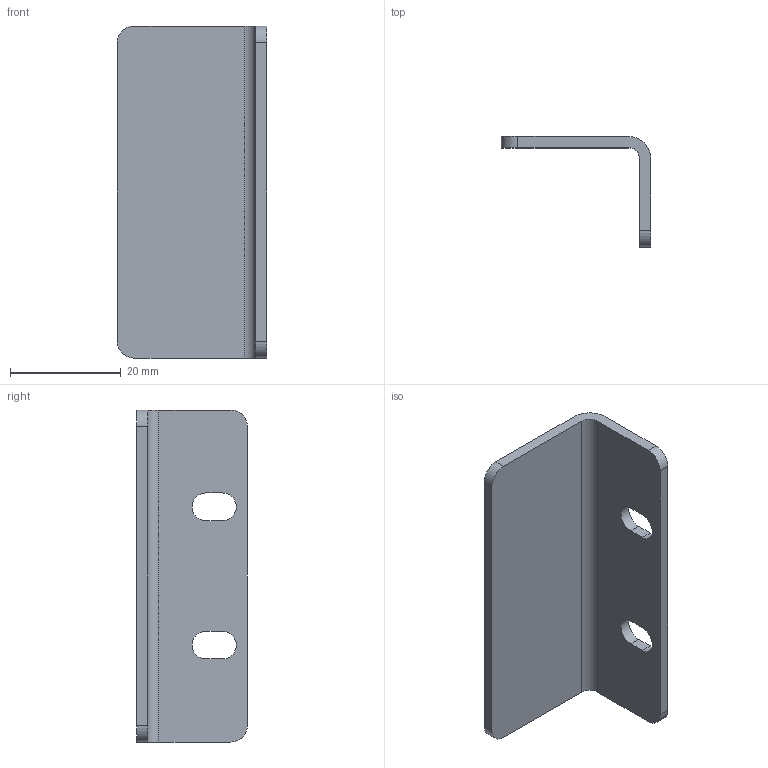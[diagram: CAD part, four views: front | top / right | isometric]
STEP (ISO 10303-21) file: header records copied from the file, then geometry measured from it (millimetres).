
FILE_DESCRIPTION (( 'STEP AP203' ), '1' );
FILE_NAME ('YWSD-2026-03-01-05-02=005 綴結啣.STEP', '2026-07-24T07:36:58', ( 'Windows 蚚誧' ), ( '' ), 'SwSTEP 2.0', 'SolidWorks 2024', '' );
FILE_SCHEMA (( 'CONFIG_CONTROL_DESIGN' ));
Length unit declared in the file: millimetre
Products named in the file (1): YWSD-2026-03-01-05-02=005 后挡板
Bounding box: 27 x 20 x 60 mm (x, y, z)
Volume: 5091.5 mm3; surface area: 5582.9 mm2
Topology: 1 solids, 1 shells, 22 faces, 60 edges, 40 vertices
Faces by surface type: plane 12, cylinder 10
Entity records: 789 total; most frequent: DIRECTION 126, CARTESIAN_POINT 123, ORIENTED_EDGE 120, EDGE_CURVE 60, AXIS2_PLACEMENT_3D 43, VECTOR 40, LINE 40, VERTEX_POINT 40
